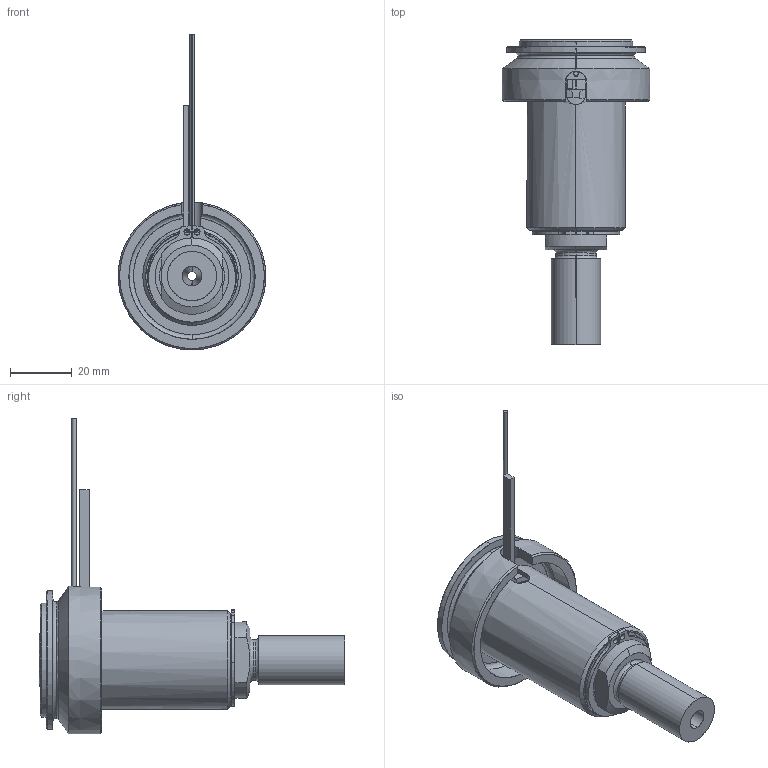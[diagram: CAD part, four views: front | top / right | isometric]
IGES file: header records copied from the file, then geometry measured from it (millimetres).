
Start section: SolidWorks IGES file using analytic representation for surfaces
Global section: file name: C:\Documents and Settings\ws-20\Desktop\TEMPORANEA\UGBE5001-M-A-P-3 [Ød-3.0 P-25 ØC-13].IGS; native system: SolidWorks 2012; preprocessor: SolidWorks 2012; author: ws-20; date: 120306.161359; units: millimetre
Bounding box: 48 x 99.25 x 102.65 mm (x, y, z)
Surface area: 31200.7 mm2 (no closed solid volume)
Topology: 0 solids, 0 shells, 112 faces, 2112 edges, 2112 vertices
Faces by surface type: revolution 63, bspline 49
